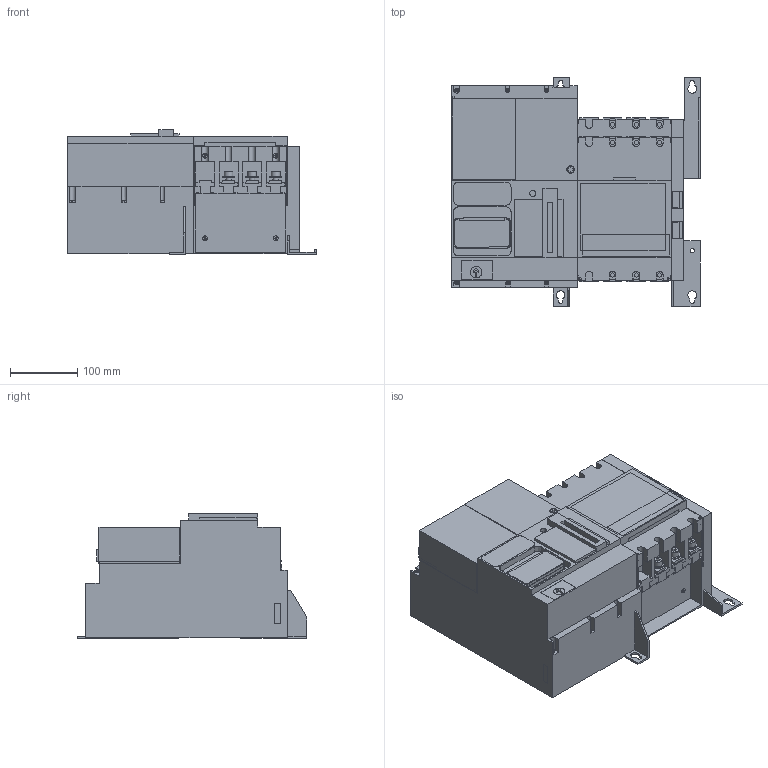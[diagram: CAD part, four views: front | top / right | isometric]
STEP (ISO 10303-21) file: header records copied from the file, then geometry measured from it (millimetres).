
FILE_DESCRIPTION((''),'2;1');
FILE_NAME('TA25D3S2504TPE_3D-SIMPLIFIED_ASM','2022-11-30T23:09:17',('SESA654545'),('Schneider-Electric'),'CREO PARAMETRIC BY PTC INC, 2021284','CREO PARAMETRIC BY PTC INC, 2021284','');
FILE_SCHEMA(('AP242_MANAGED_MODEL_BASED_3D_ENGINEERING_MIM_LF { 1 0 10303 442 1 1 4 }'));
Length unit declared in the file: millimetre
Products named in the file (6): EMPTYNODE_1669828757749_ASM_1; R3-3P-ROTARY_1_1; R3-3P-ROTARY_1_ASM; R3-3P-ROTARY-V03-3D_ASM_1_ASM; 1669828756969_ASM_1_ASM; TA25D3S2504TPE_3D-SIMPLIFIED_ASM
Assembly tree (5 placements, depth 5):
  TA25D3S2504TPE_3D-SIMPLIFIED_ASM
    1669828756969_ASM_1_ASM
      EMPTYNODE_1669828757749_ASM_1
      R3-3P-ROTARY-V03-3D_ASM_1_ASM
        R3-3P-ROTARY_1_ASM
          R3-3P-ROTARY_1_1
Bounding box: 370 x 341 x 185.8 mm (x, y, z)
Volume: 13920212.2 mm3; surface area: 656132.4 mm2
Topology: 1 solids, 1 shells, 1581 faces, 4432 edges, 2994 vertices
Faces by surface type: plane 1246, cylinder 322, extrusion 13
Entity records: 65343 total; most frequent: CARTESIAN_POINT 10446, ORIENTED_EDGE 8864, DIRECTION 8074, PRESENTATION_STYLE_ASSIGNMENT 4433, STYLED_ITEM 4433, CURVE_STYLE 4432, EDGE_CURVE 4432, VECTOR 3590
